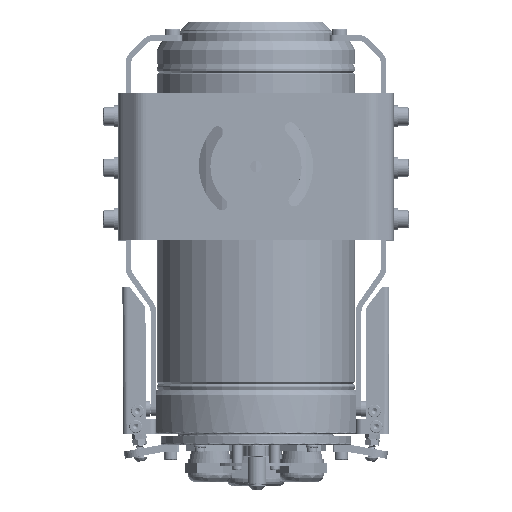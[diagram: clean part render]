
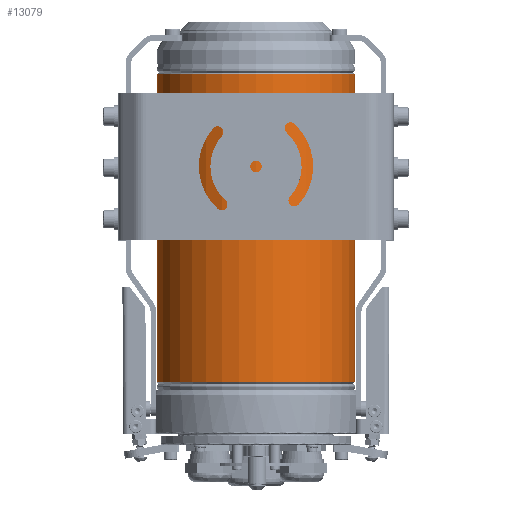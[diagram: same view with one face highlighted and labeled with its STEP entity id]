
A CAD part, front view. The second image highlights one B-rep face of the part: STEP entity #13079.
In plain terms, the highlighted cylindrical face has radius 54 mm (diameter 108 mm), a partial arc.
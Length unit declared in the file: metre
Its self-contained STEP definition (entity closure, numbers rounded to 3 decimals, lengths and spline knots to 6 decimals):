
#4885 = VERTEX_POINT ( 'NONE', #26079 ) ;
#5837 = CARTESIAN_POINT ( 'NONE',  ( -0.054, 0., 0.001 ) ) ;
#7154 = ORIENTED_EDGE ( 'NONE', *, *, #56345, .T. ) ;
#7685 = ORIENTED_EDGE ( 'NONE', *, *, #83595, .T. ) ;
#13079 = ADVANCED_FACE ( 'F', ( #113086 ), #49292, .T. ) ;
#13206 = AXIS2_PLACEMENT_3D ( 'NONE', #86389, #116761, #15520 ) ;
#15520 = DIRECTION ( 'NONE',  ( -1., 0., 0. ) ) ;
#26079 = CARTESIAN_POINT ( 'NONE',  ( -0.054, 0., 0.1685 ) ) ;
#39210 = CARTESIAN_POINT ( 'NONE',  ( 0., 0., 0.001 ) ) ;
#41727 = DIRECTION ( 'NONE',  ( 0., 0., -1. ) ) ;
#46849 = CIRCLE ( 'NONE', #85160, 0.054 ) ;
#49292 = CYLINDRICAL_SURFACE ( 'NONE', #13206, 0.054 ) ;
#49484 = DIRECTION ( 'NONE',  ( -1., 0., 0. ) ) ;
#54730 = VECTOR ( 'NONE', #110367, 1. ) ;
#56345 = EDGE_CURVE ( 'NONE', #77821, #69813, #46849, .T. ) ;
#58449 = EDGE_CURVE ( 'NONE', #106235, #4885, #83752, .T. ) ;
#60382 = EDGE_LOOP ( 'NONE', ( #91236, #130902, #7685, #7154 ) ) ;
#65642 = DIRECTION ( 'NONE',  ( 0., 0., -1. ) ) ;
#69373 = CARTESIAN_POINT ( 'NONE',  ( -0.054, 0., 0.1695 ) ) ;
#69813 = VERTEX_POINT ( 'NONE', #116613 ) ;
#77821 = VERTEX_POINT ( 'NONE', #5837 ) ;
#81776 = LINE ( 'NONE', #69373, #54730 ) ;
#83595 = EDGE_CURVE ( 'NONE', #4885, #77821, #81776, .T. ) ;
#83752 = CIRCLE ( 'NONE', #101841, 0.054 ) ;
#85160 = AXIS2_PLACEMENT_3D ( 'NONE', #39210, #110516, #49484 ) ;
#86389 = CARTESIAN_POINT ( 'NONE',  ( 0., 0., 0.1695 ) ) ;
#88873 = CARTESIAN_POINT ( 'NONE',  ( 0.054, 0., 0.1685 ) ) ;
#91236 = ORIENTED_EDGE ( 'NONE', *, *, #101702, .F. ) ;
#98277 = VECTOR ( 'NONE', #65642, 1. ) ;
#101702 = EDGE_CURVE ( 'NONE', #106235, #69813, #125331, .T. ) ;
#101841 = AXIS2_PLACEMENT_3D ( 'NONE', #102832, #41727, #113043 ) ;
#102832 = CARTESIAN_POINT ( 'NONE',  ( 0., 0., 0.1685 ) ) ;
#106163 = CARTESIAN_POINT ( 'NONE',  ( 0.054, 0., 0.1695 ) ) ;
#106235 = VERTEX_POINT ( 'NONE', #88873 ) ;
#110367 = DIRECTION ( 'NONE',  ( 0., 0., -1. ) ) ;
#110516 = DIRECTION ( 'NONE',  ( 0., 0., 1. ) ) ;
#113043 = DIRECTION ( 'NONE',  ( -1., 0., 0. ) ) ;
#113086 = FACE_OUTER_BOUND ( 'NONE', #60382, .T. ) ;
#116613 = CARTESIAN_POINT ( 'NONE',  ( 0.054, 0., 0.001 ) ) ;
#116761 = DIRECTION ( 'NONE',  ( 0., 0., -1. ) ) ;
#125331 = LINE ( 'NONE', #106163, #98277 ) ;
#130902 = ORIENTED_EDGE ( 'NONE', *, *, #58449, .T. ) ;
